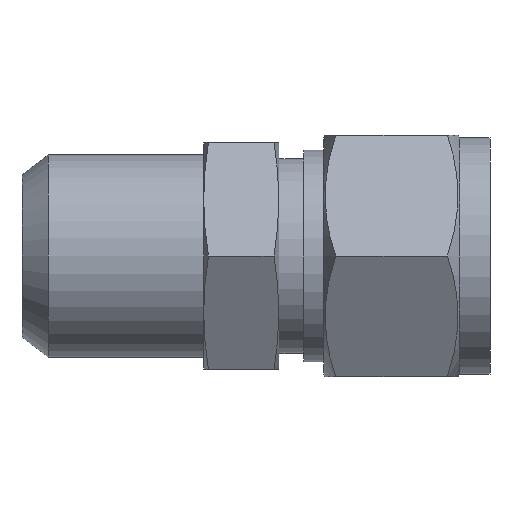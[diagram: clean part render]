
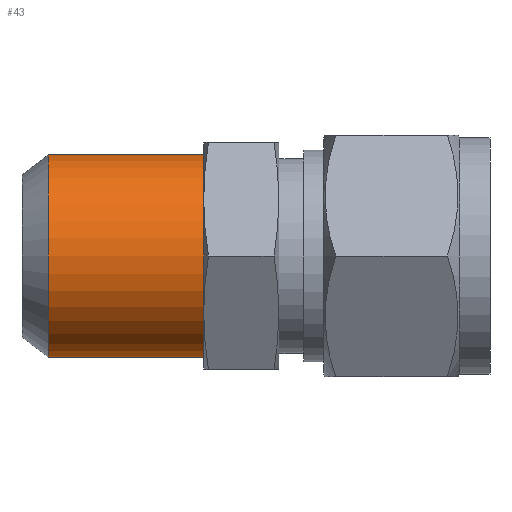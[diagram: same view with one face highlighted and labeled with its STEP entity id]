
A CAD part, front view. The second image highlights one B-rep face of the part: STEP entity #43.
In plain terms, the highlighted cylindrical face has radius 10.65 mm (diameter 21.3 mm), a partial arc.
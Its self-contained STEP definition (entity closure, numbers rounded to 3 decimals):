
#39 = ORIENTED_EDGE ( 'NONE', *, *, #203, .F. ) ;
#42 = EDGE_LOOP ( 'NONE', ( #39, #60, #1714, #1709 ) ) ;
#43 = ADVANCED_FACE ( 'NONE', ( #553 ), #552, .T. ) ;
#60 = ORIENTED_EDGE ( 'NONE', *, *, #467, .F. ) ;
#194 = EDGE_CURVE ( 'NONE', #217, #198, #830, .T. ) ;
#198 = VERTEX_POINT ( 'NONE', #820 ) ;
#200 = VERTEX_POINT ( 'NONE', #809 ) ;
#203 = EDGE_CURVE ( 'NONE', #216, #200, #808, .T. ) ;
#216 = VERTEX_POINT ( 'NONE', #850 ) ;
#217 = VERTEX_POINT ( 'NONE', #849 ) ;
#467 = EDGE_CURVE ( 'NONE', #217, #216, #1391, .T. ) ;
#543 = DIRECTION ( 'NONE',  ( 0., 0., -1. ) ) ;
#544 = AXIS2_PLACEMENT_3D ( 'NONE', #556, #554, #543 ) ;
#552 = CYLINDRICAL_SURFACE ( 'NONE', #544, 10.65 ) ;
#553 = FACE_OUTER_BOUND ( 'NONE', #42, .T. ) ;
#554 = DIRECTION ( 'NONE',  ( 1., 0., 0. ) ) ;
#556 = CARTESIAN_POINT ( 'NONE',  ( -19.1, 0., 0. ) ) ;
#805 = DIRECTION ( 'NONE',  ( 1., 0., 0. ) ) ;
#806 = VECTOR ( 'NONE', #805, 1000. ) ;
#807 = CARTESIAN_POINT ( 'NONE',  ( -19.1, 0., 10.65 ) ) ;
#808 = LINE ( 'NONE', #807, #806 ) ;
#809 = CARTESIAN_POINT ( 'NONE',  ( 0., 0., 10.65 ) ) ;
#820 = CARTESIAN_POINT ( 'NONE',  ( 0., 0., -10.65 ) ) ;
#822 = DIRECTION ( 'NONE',  ( 1., 0., 0. ) ) ;
#823 = VECTOR ( 'NONE', #822, 1000. ) ;
#824 = CARTESIAN_POINT ( 'NONE',  ( -19.1, 0., -10.65 ) ) ;
#830 = LINE ( 'NONE', #824, #823 ) ;
#849 = CARTESIAN_POINT ( 'NONE',  ( -16.363, 0., -10.65 ) ) ;
#850 = CARTESIAN_POINT ( 'NONE',  ( -16.363, 0., 10.65 ) ) ;
#1387 = DIRECTION ( 'NONE',  ( 0., 0., -1. ) ) ;
#1388 = DIRECTION ( 'NONE',  ( -1., 0., 0. ) ) ;
#1389 = CARTESIAN_POINT ( 'NONE',  ( -16.363, 0., 0. ) ) ;
#1390 = AXIS2_PLACEMENT_3D ( 'NONE', #1389, #1388, #1387 ) ;
#1391 = CIRCLE ( 'NONE', #1390, 10.65 ) ;
#1512 = DIRECTION ( 'NONE',  ( 0., 0., -1. ) ) ;
#1513 = DIRECTION ( 'NONE',  ( -1., 0., 0. ) ) ;
#1514 = CARTESIAN_POINT ( 'NONE',  ( 0., 0., 0. ) ) ;
#1515 = AXIS2_PLACEMENT_3D ( 'NONE', #1514, #1513, #1512 ) ;
#1520 = CIRCLE ( 'NONE', #1515, 10.65 ) ;
#1702 = EDGE_CURVE ( 'NONE', #198, #200, #1520, .T. ) ;
#1709 = ORIENTED_EDGE ( 'NONE', *, *, #1702, .T. ) ;
#1714 = ORIENTED_EDGE ( 'NONE', *, *, #194, .T. ) ;
